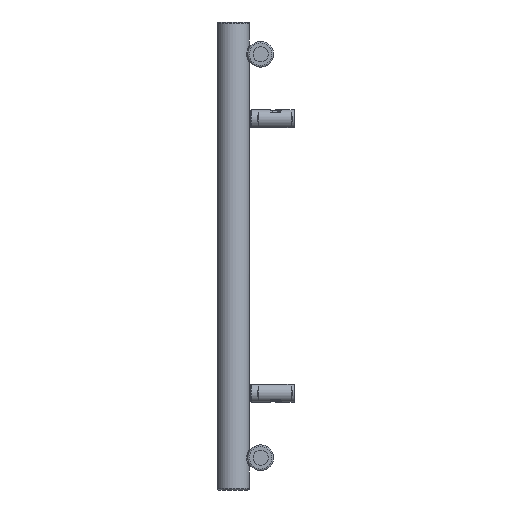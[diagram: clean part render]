
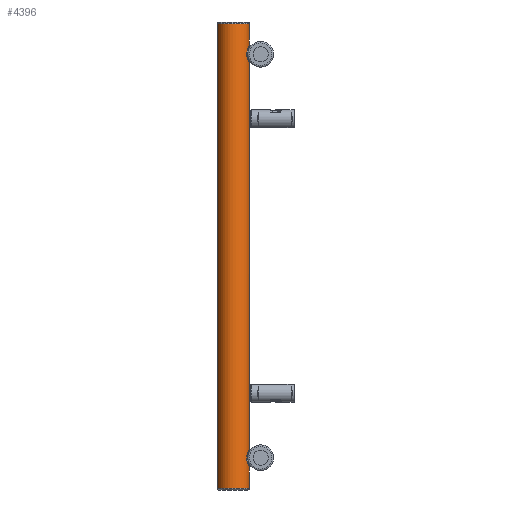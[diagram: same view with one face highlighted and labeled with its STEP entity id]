
A CAD part, left-side view. The second image highlights one B-rep face of the part: STEP entity #4396.
In plain terms, the highlighted cylindrical face has radius 20 mm (diameter 40 mm), a full revolution.
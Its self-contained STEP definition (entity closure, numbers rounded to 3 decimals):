
#336=FACE_BOUND('',#1059,.T.);
#337=FACE_BOUND('',#1060,.T.);
#394=LINE('',#13415,#492);
#492=VECTOR('',#5558,20.);
#590=CYLINDRICAL_SURFACE('',#4788,20.);
#678=FACE_OUTER_BOUND('',#1058,.T.);
#1058=EDGE_LOOP('',(#3283,#3284,#3285,#3286,#3287));
#1059=EDGE_LOOP('',(#3288));
#1060=EDGE_LOOP('',(#3289));
#1427=B_SPLINE_CURVE_WITH_KNOTS('',3,(#13390,#13391,#13392,#13393,#13394,
#13395,#13396,#13397,#13398,#13399,#13400,#13401,#13402,#13403,#13404,#13405,
#13406,#13407,#13408,#13409),.UNSPECIFIED.,.T.,.F.,(4,1,1,1,1,1,1,1,1,1,
1,1,1,1,1,1,1,4),(-5.132,-4.765,-4.399,
-4.032,-3.666,-3.421,-3.177,
-2.933,-2.688,-2.199,-1.955,-1.711,
-1.466,-1.222,-0.978,-0.733,
-0.367,0.),.UNSPECIFIED.);
#1428=B_SPLINE_CURVE_WITH_KNOTS('',3,(#13419,#13420,#13421,#13422,#13423,
#13424,#13425,#13426,#13427,#13428,#13429,#13430,#13431,#13432,#13433,#13434,
#13435,#13436,#13437,#13438,#13439,#13440,#13441,#13442,#13443,#13444),
 .UNSPECIFIED.,.T.,.F.,(4,1,1,1,1,1,1,1,1,1,1,1,1,1,1,1,1,1,1,1,1,1,1,4),
(-5.132,-4.765,-4.582,-4.399,
-4.338,-4.277,-4.154,-3.91,
-3.788,-3.666,-3.421,-3.177,
-2.933,-2.444,-2.199,-2.077,
-1.955,-1.711,-1.466,-1.283,-1.1,
-0.733,-0.367,0.),.UNSPECIFIED.);
#1569=CIRCLE('',#4789,20.);
#1570=CIRCLE('',#4790,20.);
#1571=CIRCLE('',#4791,20.);
#2013=VERTEX_POINT('',#13388);
#2014=VERTEX_POINT('',#13411);
#2015=VERTEX_POINT('',#13412);
#2016=VERTEX_POINT('',#13414);
#2017=VERTEX_POINT('',#13418);
#2508=EDGE_CURVE('',#2013,#2013,#1427,.T.);
#2509=EDGE_CURVE('',#2014,#2015,#1569,.T.);
#2510=EDGE_CURVE('',#2014,#2016,#394,.T.);
#2511=EDGE_CURVE('',#2016,#2016,#1570,.T.);
#2512=EDGE_CURVE('',#2015,#2014,#1571,.T.);
#2513=EDGE_CURVE('',#2017,#2017,#1428,.T.);
#3283=ORIENTED_EDGE('',*,*,#2509,.F.);
#3284=ORIENTED_EDGE('',*,*,#2510,.T.);
#3285=ORIENTED_EDGE('',*,*,#2511,.F.);
#3286=ORIENTED_EDGE('',*,*,#2510,.F.);
#3287=ORIENTED_EDGE('',*,*,#2512,.F.);
#3288=ORIENTED_EDGE('',*,*,#2513,.F.);
#3289=ORIENTED_EDGE('',*,*,#2508,.F.);
#4396=ADVANCED_FACE('',(#678,#336,#337),#590,.T.);
#4788=AXIS2_PLACEMENT_3D('',#13410,#5554,#5555);
#4789=AXIS2_PLACEMENT_3D('',#13413,#5556,#5557);
#4790=AXIS2_PLACEMENT_3D('',#13416,#5559,#5560);
#4791=AXIS2_PLACEMENT_3D('',#13417,#5561,#5562);
#5554=DIRECTION('center_axis',(0.,0.,1.));
#5555=DIRECTION('ref_axis',(-1.,0.,0.));
#5556=DIRECTION('center_axis',(0.,0.,1.));
#5557=DIRECTION('ref_axis',(-1.,0.,0.));
#5558=DIRECTION('',(0.,0.,-1.));
#5559=DIRECTION('center_axis',(0.,0.,-1.));
#5560=DIRECTION('ref_axis',(-1.,0.,0.));
#5561=DIRECTION('center_axis',(0.,0.,1.));
#5562=DIRECTION('ref_axis',(-1.,0.,0.));
#13388=CARTESIAN_POINT('',(-1430.,-20.,50.1));
#13390=CARTESIAN_POINT('Ctrl Pts',(-1430.,-20.,50.1));
#13391=CARTESIAN_POINT('Ctrl Pts',(-1431.611,-20.,50.1));
#13392=CARTESIAN_POINT('Ctrl Pts',(-1434.835,-19.6,
49.586));
#13393=CARTESIAN_POINT('Ctrl Pts',(-1438.863,-18.052,47.028));
#13394=CARTESIAN_POINT('Ctrl Pts',(-1441.079,-16.659,
42.599));
#13395=CARTESIAN_POINT('Ctrl Pts',(-1441.073,-16.66,
37.981));
#13396=CARTESIAN_POINT('Ctrl Pts',(-1439.649,-17.553,
34.43));
#13397=CARTESIAN_POINT('Ctrl Pts',(-1437.534,-18.59,
32.083));
#13398=CARTESIAN_POINT('Ctrl Pts',(-1434.761,-19.502,
30.58));
#13399=CARTESIAN_POINT('Ctrl Pts',(-1430.581,-20.202,
29.64));
#13400=CARTESIAN_POINT('Ctrl Pts',(-1426.164,-19.82,30.087));
#13401=CARTESIAN_POINT('Ctrl Pts',(-1422.465,-18.59,
32.081));
#13402=CARTESIAN_POINT('Ctrl Pts',(-1420.351,-17.555,
34.431));
#13403=CARTESIAN_POINT('Ctrl Pts',(-1419.13,-16.793,
37.475));
#13404=CARTESIAN_POINT('Ctrl Pts',(-1418.885,-16.626,
40.853));
#13405=CARTESIAN_POINT('Ctrl Pts',(-1419.62,-17.113,
44.117));
#13406=CARTESIAN_POINT('Ctrl Pts',(-1421.588,-18.224,
47.308));
#13407=CARTESIAN_POINT('Ctrl Pts',(-1425.162,-19.597,
49.588));
#13408=CARTESIAN_POINT('Ctrl Pts',(-1428.389,-20.,50.1));
#13409=CARTESIAN_POINT('Ctrl Pts',(-1430.,-20.,50.1));
#13410=CARTESIAN_POINT('Origin',(-1430.,0.,0.));
#13411=CARTESIAN_POINT('',(-1410.,0.,578.));
#13412=CARTESIAN_POINT('',(-1450.,0.,578.));
#13413=CARTESIAN_POINT('Origin',(-1430.,0.,578.));
#13414=CARTESIAN_POINT('',(-1410.,0.,2.));
#13415=CARTESIAN_POINT('',(-1410.,0.,0.));
#13416=CARTESIAN_POINT('Origin',(-1430.,0.,2.));
#13417=CARTESIAN_POINT('Origin',(-1430.,0.,578.));
#13418=CARTESIAN_POINT('',(-1430.,-20.,550.1));
#13419=CARTESIAN_POINT('Ctrl Pts',(-1430.,-20.,550.1));
#13420=CARTESIAN_POINT('Ctrl Pts',(-1431.611,-20.,550.1));
#13421=CARTESIAN_POINT('Ctrl Pts',(-1434.03,-19.694,
549.71));
#13422=CARTESIAN_POINT('Ctrl Pts',(-1436.848,-18.829,
548.31));
#13423=CARTESIAN_POINT('Ctrl Pts',(-1438.236,-18.238,
547.126));
#13424=CARTESIAN_POINT('Ctrl Pts',(-1439.064,-17.83,546.115));
#13425=CARTESIAN_POINT('Ctrl Pts',(-1439.657,-17.519,
545.244));
#13426=CARTESIAN_POINT('Ctrl Pts',(-1440.501,-17.033,543.572));
#13427=CARTESIAN_POINT('Ctrl Pts',(-1440.993,-16.706,541.396));
#13428=CARTESIAN_POINT('Ctrl Pts',(-1440.992,-16.708,
539.164));
#13429=CARTESIAN_POINT('Ctrl Pts',(-1440.667,-16.92,
536.968));
#13430=CARTESIAN_POINT('Ctrl Pts',(-1439.648,-17.554,
534.431));
#13431=CARTESIAN_POINT('Ctrl Pts',(-1437.535,-18.59,
532.082));
#13432=CARTESIAN_POINT('Ctrl Pts',(-1433.836,-19.82,
530.088));
#13433=CARTESIAN_POINT('Ctrl Pts',(-1429.418,-20.204,
529.642));
#13434=CARTESIAN_POINT('Ctrl Pts',(-1425.761,-19.589,
530.463));
#13435=CARTESIAN_POINT('Ctrl Pts',(-1423.852,-19.049,
531.333));
#13436=CARTESIAN_POINT('Ctrl Pts',(-1422.114,-18.417,
532.474));
#13437=CARTESIAN_POINT('Ctrl Pts',(-1420.351,-17.553,
534.429));
#13438=CARTESIAN_POINT('Ctrl Pts',(-1419.231,-16.855,
537.221));
#13439=CARTESIAN_POINT('Ctrl Pts',(-1418.926,-16.654,
539.999));
#13440=CARTESIAN_POINT('Ctrl Pts',(-1419.29,-16.894,
543.337));
#13441=CARTESIAN_POINT('Ctrl Pts',(-1421.139,-18.049,
547.026));
#13442=CARTESIAN_POINT('Ctrl Pts',(-1425.165,-19.601,549.585));
#13443=CARTESIAN_POINT('Ctrl Pts',(-1428.389,-20.,550.1));
#13444=CARTESIAN_POINT('Ctrl Pts',(-1430.,-20.,550.1));
